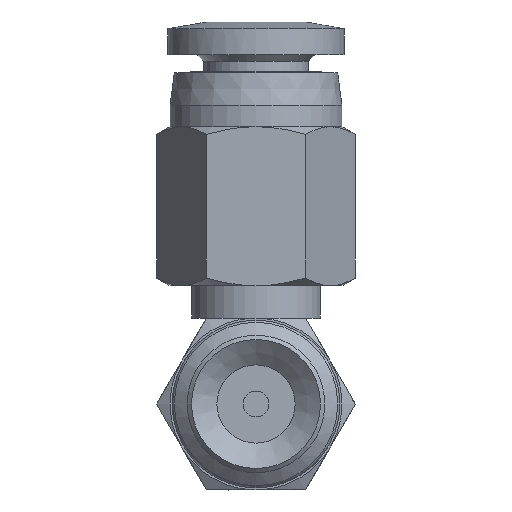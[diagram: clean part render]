
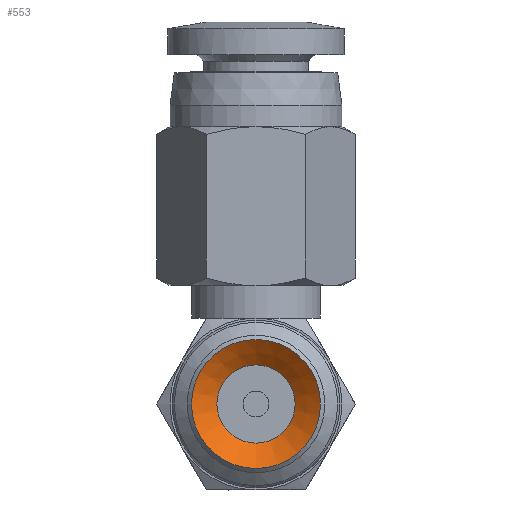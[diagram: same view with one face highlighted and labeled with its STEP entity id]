
A CAD part, front view. The second image highlights one B-rep face of the part: STEP entity #553.
In plain terms, the highlighted conical face has half-angle 52 degrees and reference radius 1.82 mm.
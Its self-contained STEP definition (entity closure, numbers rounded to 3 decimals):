
#553=ADVANCED_FACE('',(#854,#855),#856,.F.);
#854=FACE_BOUND('',#1254,.T.);
#855=FACE_OUTER_BOUND('',#1255,.T.);
#856=CONICAL_SURFACE('',#1256,1.82,0.908);
#1254=EDGE_LOOP('',(#2280));
#1255=EDGE_LOOP('',(#2281));
#1256=AXIS2_PLACEMENT_3D('',#2282,#2283,#2284);
#2280=ORIENTED_EDGE('',*,*,#2838,.F.);
#2281=ORIENTED_EDGE('',*,*,#2839,.T.);
#2282=CARTESIAN_POINT('',(0.0,6.889,0.0));
#2283=DIRECTION('',(-0.0,-1.0,0.));
#2284=DIRECTION('',(0.0,0.,-1.0));
#2838=EDGE_CURVE('',#3241,#3241,#3242,.T.);
#2839=EDGE_CURVE('',#3243,#3243,#3244,.T.);
#3241=VERTEX_POINT('',#4085);
#3242=CIRCLE('',#4086,1.82);
#3243=VERTEX_POINT('',#4087);
#3244=CIRCLE('',#4088,3.0);
#4085=CARTESIAN_POINT('',(0.0,6.889,-1.82));
#4086=AXIS2_PLACEMENT_3D('',#4794,#4795,#4796);
#4087=CARTESIAN_POINT('',(0.0,5.967,-3.0));
#4088=AXIS2_PLACEMENT_3D('',#4797,#4798,#4799);
#4794=CARTESIAN_POINT('',(0.0,6.889,0.0));
#4795=DIRECTION('',(0.0,-1.0,0.));
#4796=DIRECTION('',(0.0,0.,-1.0));
#4797=CARTESIAN_POINT('',(0.0,5.967,0.0));
#4798=DIRECTION('',(0.0,-1.0,0.));
#4799=DIRECTION('',(0.0,0.,-1.0));
